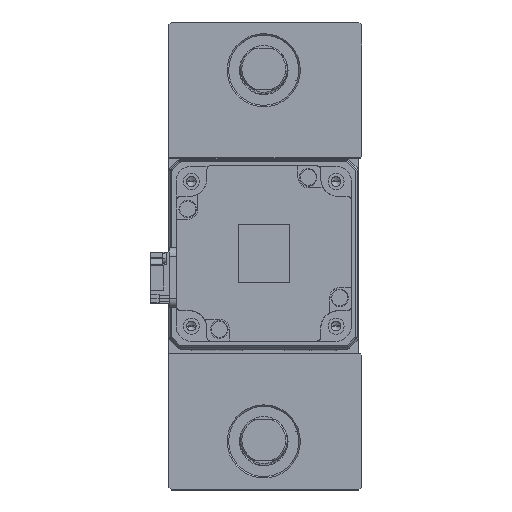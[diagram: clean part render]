
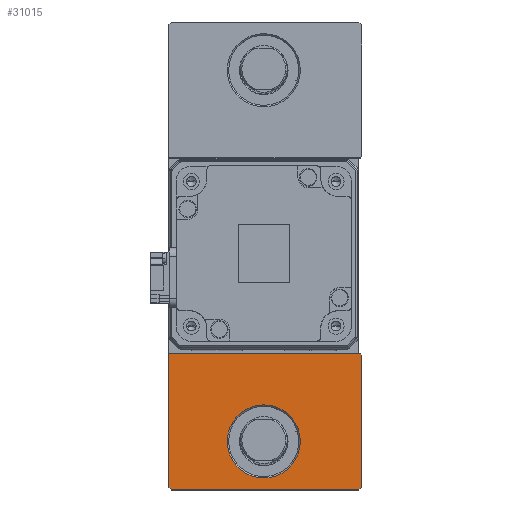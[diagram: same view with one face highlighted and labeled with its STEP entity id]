
A CAD part, top view. The second image highlights one B-rep face of the part: STEP entity #31015.
In plain terms, the highlighted planar face has unit normal (0, 0, 1).
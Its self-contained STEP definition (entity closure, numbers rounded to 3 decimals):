
#1115 = ORIENTED_EDGE ( 'NONE', *, *, #18675, .T. ) ;
#1270 = VECTOR ( 'NONE', #30061, 1000. ) ;
#1660 = CARTESIAN_POINT ( 'NONE',  ( 56.25, -56.25, 25. ) ) ;
#2184 = VERTEX_POINT ( 'NONE', #15801 ) ;
#2210 = LINE ( 'NONE', #7232, #36486 ) ;
#3013 = VERTEX_POINT ( 'NONE', #34618 ) ;
#3243 = CARTESIAN_POINT ( 'NONE',  ( -32.5, -33.5, 25. ) ) ;
#4085 = ORIENTED_EDGE ( 'NONE', *, *, #37049, .T. ) ;
#4383 = EDGE_CURVE ( 'NONE', #33654, #7635, #28689, .T. ) ;
#4662 = DIRECTION ( 'NONE',  ( 0.707, 0.707, 0. ) ) ;
#5087 = CARTESIAN_POINT ( 'NONE',  ( 33.5, -79., 25. ) ) ;
#5577 = FACE_BOUND ( 'NONE', #38296, .T. ) ;
#5589 = CARTESIAN_POINT ( 'NONE',  ( 0., -63.5, 25. ) ) ;
#6220 = LINE ( 'NONE', #1660, #35803 ) ;
#7232 = CARTESIAN_POINT ( 'NONE',  ( -32.5, -33.5, 25. ) ) ;
#7356 = LINE ( 'NONE', #11856, #22167 ) ;
#7368 = DIRECTION ( 'NONE',  ( -0.707, 0.707, 0. ) ) ;
#7635 = VERTEX_POINT ( 'NONE', #34185 ) ;
#8535 = DIRECTION ( 'NONE',  ( 1., 0., 0. ) ) ;
#9153 = LINE ( 'NONE', #36009, #1270 ) ;
#9167 = DIRECTION ( 'NONE',  ( 0., 0., -1. ) ) ;
#9699 = VERTEX_POINT ( 'NONE', #5087 ) ;
#9781 = CARTESIAN_POINT ( 'NONE',  ( 33.5, -33.5, 25. ) ) ;
#10111 = CARTESIAN_POINT ( 'NONE',  ( -31.5, -80., 25. ) ) ;
#11243 = VECTOR ( 'NONE', #23848, 1000. ) ;
#11555 = VERTEX_POINT ( 'NONE', #10111 ) ;
#11856 = CARTESIAN_POINT ( 'NONE',  ( -32.5, -33.5, 25. ) ) ;
#12324 = ORIENTED_EDGE ( 'NONE', *, *, #35231, .T. ) ;
#14317 = AXIS2_PLACEMENT_3D ( 'NONE', #27746, #36777, #19087 ) ;
#14335 = FACE_OUTER_BOUND ( 'NONE', #21683, .T. ) ;
#14555 = EDGE_CURVE ( 'NONE', #2184, #22225, #2210, .T. ) ;
#14955 = DIRECTION ( 'NONE',  ( 0., -1., 0. ) ) ;
#14992 = EDGE_CURVE ( 'NONE', #11555, #3013, #9153, .T. ) ;
#15363 = AXIS2_PLACEMENT_3D ( 'NONE', #5589, #26232, #8535 ) ;
#15801 = CARTESIAN_POINT ( 'NONE',  ( 33., -33.5, 25. ) ) ;
#17292 = EDGE_CURVE ( 'NONE', #27261, #11555, #20041, .T. ) ;
#17397 = VECTOR ( 'NONE', #30459, 1000. ) ;
#17515 = CARTESIAN_POINT ( 'NONE',  ( -32.5, -79., 25. ) ) ;
#18675 = EDGE_CURVE ( 'NONE', #9699, #33485, #33174, .T. ) ;
#18819 = LINE ( 'NONE', #36949, #26643 ) ;
#19087 = DIRECTION ( 'NONE',  ( 1., 0., 0. ) ) ;
#20041 = LINE ( 'NONE', #32798, #11243 ) ;
#21683 = EDGE_LOOP ( 'NONE', ( #26705, #12324, #1115, #4085, #31277, #34672, #27669 ) ) ;
#21836 = CARTESIAN_POINT ( 'NONE',  ( 12.5, -63.5, 25. ) ) ;
#22167 = VECTOR ( 'NONE', #14955, 1000. ) ;
#22172 = AXIS2_PLACEMENT_3D ( 'NONE', #26858, #9167, #29832 ) ;
#22225 = VERTEX_POINT ( 'NONE', #3243 ) ;
#23848 = DIRECTION ( 'NONE',  ( 0.707, -0.707, 0. ) ) ;
#24876 = PLANE ( 'NONE',  #14317 ) ;
#25581 = CIRCLE ( 'NONE', #22172, 12.5 ) ;
#26232 = DIRECTION ( 'NONE',  ( 0., 0., -1. ) ) ;
#26643 = VECTOR ( 'NONE', #7368, 1000. ) ;
#26705 = ORIENTED_EDGE ( 'NONE', *, *, #14992, .T. ) ;
#26858 = CARTESIAN_POINT ( 'NONE',  ( 0., -63.5, 25. ) ) ;
#27182 = ORIENTED_EDGE ( 'NONE', *, *, #35495, .T. ) ;
#27261 = VERTEX_POINT ( 'NONE', #17515 ) ;
#27669 = ORIENTED_EDGE ( 'NONE', *, *, #17292, .T. ) ;
#27746 = CARTESIAN_POINT ( 'NONE',  ( 0., 0., 25. ) ) ;
#28689 = CIRCLE ( 'NONE', #15363, 12.5 ) ;
#29832 = DIRECTION ( 'NONE',  ( 1., 0., 0. ) ) ;
#30061 = DIRECTION ( 'NONE',  ( 1., 0., 0. ) ) ;
#30459 = DIRECTION ( 'NONE',  ( 0., 1., 0. ) ) ;
#30740 = DIRECTION ( 'NONE',  ( -1., 0., 0. ) ) ;
#31015 = ADVANCED_FACE ( 'NONE', ( #5577, #14335 ), #24876, .T. ) ;
#31022 = ORIENTED_EDGE ( 'NONE', *, *, #4383, .T. ) ;
#31277 = ORIENTED_EDGE ( 'NONE', *, *, #14555, .T. ) ;
#31859 = EDGE_CURVE ( 'NONE', #22225, #27261, #7356, .T. ) ;
#32798 = CARTESIAN_POINT ( 'NONE',  ( -55.75, -55.75, 25. ) ) ;
#32812 = CARTESIAN_POINT ( 'NONE',  ( 33.5, -34., 25. ) ) ;
#33174 = LINE ( 'NONE', #9781, #17397 ) ;
#33485 = VERTEX_POINT ( 'NONE', #32812 ) ;
#33654 = VERTEX_POINT ( 'NONE', #21836 ) ;
#34185 = CARTESIAN_POINT ( 'NONE',  ( -12.5, -63.5, 25. ) ) ;
#34618 = CARTESIAN_POINT ( 'NONE',  ( 32.5, -80., 25. ) ) ;
#34672 = ORIENTED_EDGE ( 'NONE', *, *, #31859, .T. ) ;
#35231 = EDGE_CURVE ( 'NONE', #3013, #9699, #6220, .T. ) ;
#35495 = EDGE_CURVE ( 'NONE', #7635, #33654, #25581, .T. ) ;
#35803 = VECTOR ( 'NONE', #4662, 1000. ) ;
#36009 = CARTESIAN_POINT ( 'NONE',  ( -32.5, -80., 25. ) ) ;
#36486 = VECTOR ( 'NONE', #30740, 1000. ) ;
#36777 = DIRECTION ( 'NONE',  ( 0., 0., 1. ) ) ;
#36949 = CARTESIAN_POINT ( 'NONE',  ( -0.25, -0.25, 25. ) ) ;
#37049 = EDGE_CURVE ( 'NONE', #33485, #2184, #18819, .T. ) ;
#38296 = EDGE_LOOP ( 'NONE', ( #31022, #27182 ) ) ;
